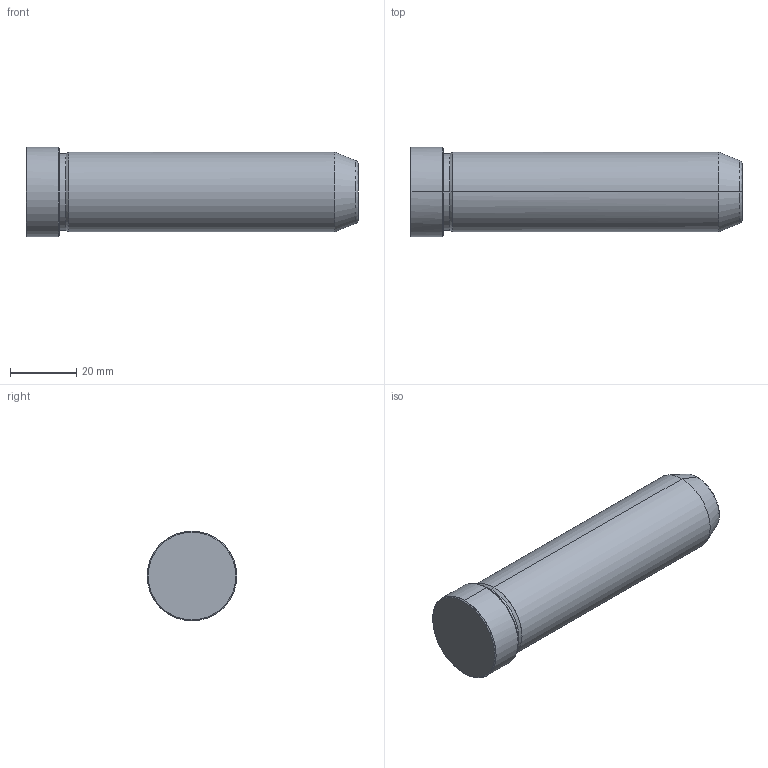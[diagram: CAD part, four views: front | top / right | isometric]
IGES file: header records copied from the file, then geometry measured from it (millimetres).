
Start section: START RECORD GO HERE.
Global section: file name: 549-24X100.igs; native system: DASSAULT SYSTEMES CATIA V5 R20 - www.3ds.com; preprocessor: CATIA Version 5 Release 20 ; author: Utente; organization: NB04-ASUS; date: 20211217.150612; units: millimetre
Bounding box: 100 x 27 x 27 mm (x, y, z)
Surface area: 8565 mm2 (no closed solid volume)
Topology: 0 solids, 0 shells, 19 faces, 112 edges, 112 vertices
Faces by surface type: revolution 16, plane 3
